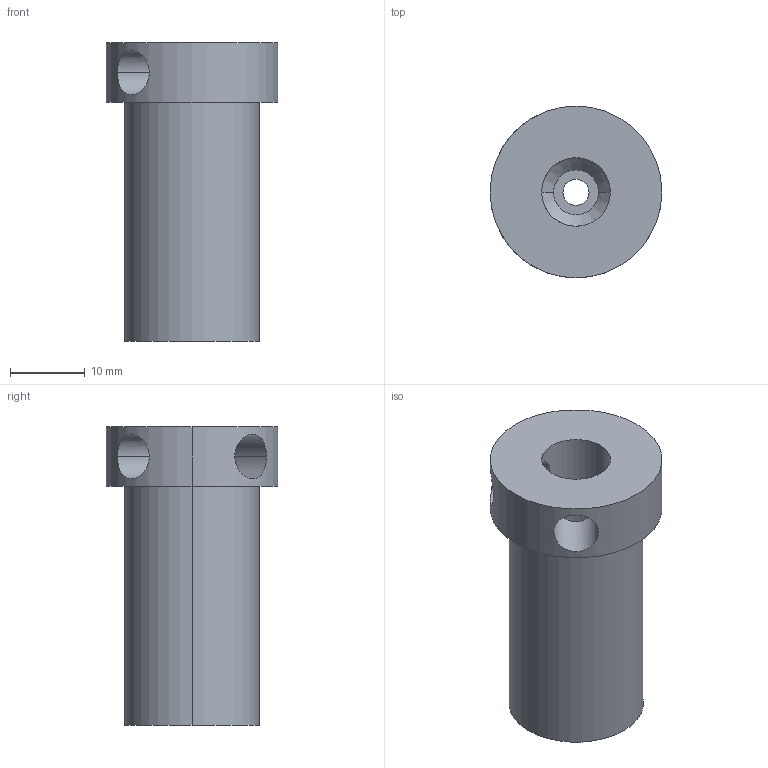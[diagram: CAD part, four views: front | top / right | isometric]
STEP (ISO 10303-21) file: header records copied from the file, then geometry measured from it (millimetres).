
FILE_DESCRIPTION(/* description */ (''),/* implementation_level */ '2;1');
FILE_NAME(/* name */ '3d_usn10-40_06260_r00.stp',/* time_stamp */ '2011-01-10T14:08:53+09:00',/* author */ ('MISUMI'),/* organization */ (''),/* preprocessor_version */ 'ST-DEVELOPER v11',/* originating_system */ 'UGS - NX 5.0',/* authorisation */ '');
FILE_SCHEMA (('CONFIG_CONTROL_DESIGN'));
Length unit declared in the file: millimetre
Products named in the file (1): 3d_usn10-40_06260_r00
Bounding box: 23 x 23 x 40 mm (x, y, z)
Volume: 8490.4 mm3; surface area: 4451.1 mm2
Topology: 1 solids, 1 shells, 21 faces, 46 edges, 30 vertices
Faces by surface type: cylinder 14, plane 5, cone 2
Entity records: 908 total; most frequent: CARTESIAN_POINT 338, DIRECTION 104, ORIENTED_EDGE 92, EDGE_CURVE 46, AXIS2_PLACEMENT_3D 44, EDGE_LOOP 30, VERTEX_POINT 30, CIRCLE 22
